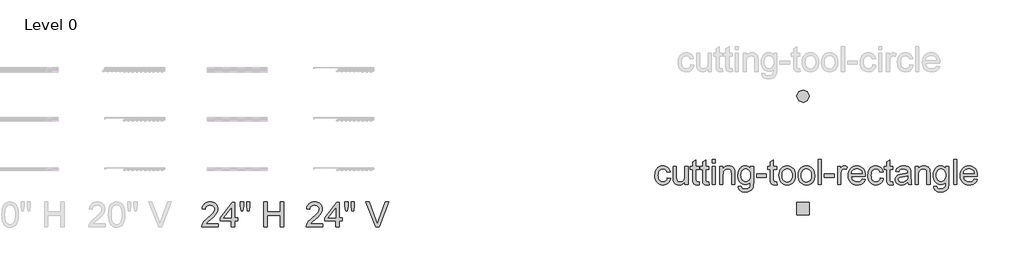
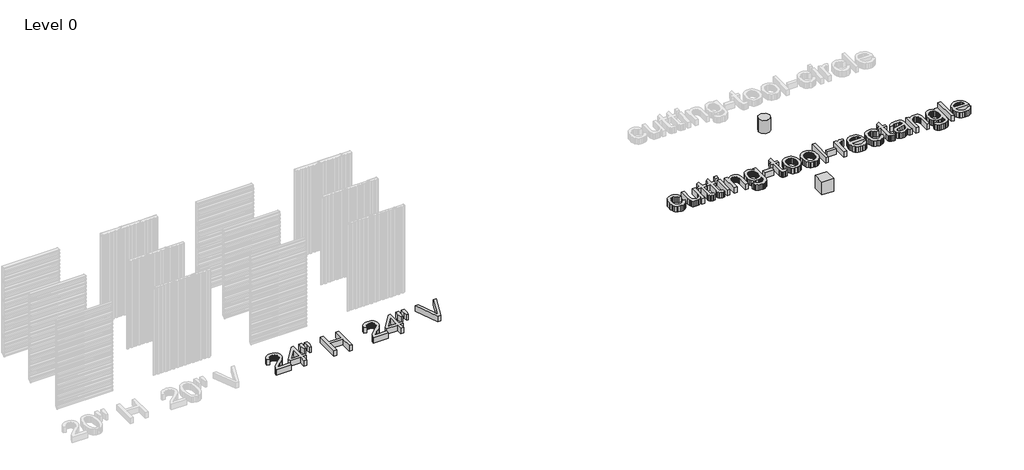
# One storey, part 3 of 4: 5 proxies.
"""IFC4 building model written with IfcOpenShell, lengths in millimetres."""

from ifc_helpers import new_model, si_unit, origin, origin_with_axes, place, context, project, spatial, polyline, outline, extrude, transform, mapped, element, save
from components import kingspan_ks_cutting_tool_circle_cutting_tool_circle_f6fe257a, kingspan_ks_cutting_tool_rectangle_cutting_tool_rectangle_f435e5aa

model = new_model("IFC4")

# Units and contexts
model_context = context("Model", 3, world=origin())
ifc_project = project(units=[si_unit("LENGTHUNIT", "METRE", prefix="MILLI")], contexts=[model_context])

# Site, building, storey
site = spatial("IfcSite", under=ifc_project)
building = spatial("IfcBuilding", under=site)
storey = spatial("IfcBuildingStorey", under=building, Name="Level 0", Elevation=0.0)

# Proxies
placement = place(None, origin())
element("IfcBuildingElementProxy", 1, Name="24\" Arial", ObjectType="24\" Arial", at=placement, inside=storey, context=model_context, shape_type="SweptSolid", body=[
    extrude(outline(polyline([(-14330.7539818, 9485.5823155), (-14330.7539818, 9409.440542), (-14730.4982928, 9409.440542), (-14728.8252557, 9436.2463129), (-14722.3190007, 9461.9367257), (-14703.5438075, 9502.9633112), (-14676.0688218, 9542.7630029), (-14636.3248981, 9584.4216246), (-14580.7428905, 9631.0250001), (-14498.5781838, 9704.0065926), (-14449.2793597, 9757.8783845), (-14434.900536, 9779.8881159), (-14424.6299477, 9801.6004185), (-14418.4675947, 9823.0152923), (-14416.413477, 9844.1327373), (-14418.3514115, 9864.0000519), (-14424.1652152, 9882.259392), (-14433.8548879, 9898.9107576), (-14447.4204297, 9913.9541488), (-14464.1089739, 9926.4136272), (-14483.1676539, 9935.3132547), (-14504.5964697, 9940.6530311), (-14528.3954213, 9942.4329566), (-14553.4677399, 9940.6948571), (-14575.8910832, 9935.4805584), (-14595.6654513, 9926.7900605), (-14612.790844, 9914.6233636), (-14626.64452, 9899.3894321), (-14636.6037376, 9881.4972307), (-14642.6684968, 9860.9467593), (-14644.8387975, 9837.7380181), (-14720.9805711, 9847.2557397), (-14714.4324901, 9886.562815), (-14702.521396, 9920.906547), (-14685.2472888, 9950.286936), (-14662.6101685, 9974.7039817), (-14635.1305355, 9993.8974342), (-14603.3288903, 10007.6070431), (-14567.2052327, 10015.8328084), (-14526.7595628, 10018.5747302), (-14485.9514016, 10015.5260849), (-14449.6325564, 10006.3801492), (-14417.8030272, 9991.1369231), (-14390.462814, 9969.7964065), (-14368.5042031, 9943.93869), (-14352.8194811, 9915.143864), (-14343.4086479, 9883.4119286), (-14340.2717035, 9848.7428838), (-14343.6549561, 9812.3264447), (-14353.804714, 9776.5420419), (-14371.8177459, 9740.1441921), (-14398.7908204, 9701.8874124), (-14441.7878717, 9656.2135018), (-14507.8728339, 9597.5642598), (-14595.4656163, 9524.3224171), (-14629.818643, 9485.5823155), (-14330.7539818, 9485.5823155)])), origin_with_axes(), (0.0, 0.0, 1.0), 152.4),
    extrude(outline(polyline([(-14007.1514443, 9409.440542), (-14007.1514443, 9552.2063674), (-14283.1653733, 9552.2063674), (-14283.1653733, 9628.3481409), (-13988.116001, 10009.0570085), (-13931.0096708, 10009.0570085), (-13931.0096708, 9628.3481409), (-13854.8678973, 9628.3481409), (-13854.8678973, 9552.2063674), (-13931.0096708, 9552.2063674), (-13931.0096708, 9409.440542), (-14007.1514443, 9409.440542)]), holes=[polyline([(-14007.1514443, 9628.3481409), (-14007.1514443, 9863.6143239), (-14189.4753005, 9628.3481409), (-14007.1514443, 9628.3481409)])]), origin_with_axes(), (0.0, 0.0, 1.0), 152.4),
    extrude(outline(polyline([(-13769.6545453, 9799.6671313), (-13788.2438455, 9917.3002228), (-13788.2438455, 10018.5747302), (-13712.102072, 10018.5747302), (-13712.102072, 9917.3002228), (-13728.7580849, 9799.6671313), (-13769.6545453, 9799.6671313)])), origin_with_axes(), (0.0, 0.0, 1.0), 152.4),
    extrude(outline(polyline([(-13617.8171415, 9799.6671313), (-13635.9602984, 9917.3002228), (-13635.9602984, 10018.5747302), (-13559.8185249, 10018.5747302), (-13559.8185249, 9917.3002228), (-13577.6642531, 9799.6671313), (-13617.8171415, 9799.6671313)])), origin_with_axes(), (0.0, 0.0, 1.0), 152.4),
    extrude(outline(polyline([(-13217.1805441, 9409.440542), (-13217.1805441, 10018.5747302), (-13141.0387706, 10018.5747302), (-13141.0387706, 9771.1139662), (-12817.4362331, 9771.1139662), (-12817.4362331, 10018.5747302), (-12741.2944596, 10018.5747302), (-12741.2944596, 9409.440542), (-12817.4362331, 9409.440542), (-12817.4362331, 9694.9721927), (-13141.0387706, 9694.9721927), (-13141.0387706, 9409.440542), (-13217.1805441, 9409.440542)])), origin_with_axes(), (0.0, 0.0, 1.0), 152.4),
])
element("IfcBuildingElementProxy", 2, Name="24\" Arial", ObjectType="24\" Arial", at=placement, inside=storey, context=model_context, shape_type="SweptSolid", body=[
    extrude(outline(polyline([(-11790.7539818, 9485.5823155), (-11790.7539818, 9409.440542), (-12190.4982928, 9409.440542), (-12188.8252557, 9436.2463129), (-12182.3190007, 9461.9367257), (-12163.5438075, 9502.9633112), (-12136.0688218, 9542.7630029), (-12096.3248981, 9584.4216246), (-12040.7428905, 9631.0250001), (-11958.5781838, 9704.0065926), (-11909.2793597, 9757.8783845), (-11894.900536, 9779.8881159), (-11884.6299477, 9801.6004185), (-11878.4675947, 9823.0152923), (-11876.413477, 9844.1327373), (-11878.3514115, 9864.0000519), (-11884.1652152, 9882.259392), (-11893.8548879, 9898.9107576), (-11907.4204297, 9913.9541488), (-11924.1089739, 9926.4136272), (-11943.1676539, 9935.3132547), (-11964.5964697, 9940.6530311), (-11988.3954213, 9942.4329566), (-12013.4677399, 9940.6948571), (-12035.8910832, 9935.4805584), (-12055.6654513, 9926.7900605), (-12072.790844, 9914.6233636), (-12086.64452, 9899.3894321), (-12096.6037376, 9881.4972307), (-12102.6684968, 9860.9467593), (-12104.8387975, 9837.7380181), (-12180.9805711, 9847.2557397), (-12174.4324901, 9886.562815), (-12162.521396, 9920.906547), (-12145.2472888, 9950.286936), (-12122.6101685, 9974.7039817), (-12095.1305355, 9993.8974342), (-12063.3288903, 10007.6070431), (-12027.2052327, 10015.8328084), (-11986.7595628, 10018.5747302), (-11945.9514016, 10015.5260849), (-11909.6325564, 10006.3801492), (-11877.8030272, 9991.1369231), (-11850.462814, 9969.7964065), (-11828.5042031, 9943.93869), (-11812.8194811, 9915.143864), (-11803.4086479, 9883.4119286), (-11800.2717035, 9848.7428838), (-11803.6549561, 9812.3264447), (-11813.804714, 9776.5420419), (-11831.8177459, 9740.1441921), (-11858.7908204, 9701.8874124), (-11901.7878717, 9656.2135018), (-11967.8728339, 9597.5642598), (-12055.4656163, 9524.3224171), (-12089.818643, 9485.5823155), (-11790.7539818, 9485.5823155)])), origin_with_axes(), (0.0, 0.0, 1.0), 152.4),
    extrude(outline(polyline([(-11467.1514443, 9409.440542), (-11467.1514443, 9552.2063674), (-11743.1653733, 9552.2063674), (-11743.1653733, 9628.3481409), (-11448.116001, 10009.0570085), (-11391.0096708, 10009.0570085), (-11391.0096708, 9628.3481409), (-11314.8678973, 9628.3481409), (-11314.8678973, 9552.2063674), (-11391.0096708, 9552.2063674), (-11391.0096708, 9409.440542), (-11467.1514443, 9409.440542)]), holes=[polyline([(-11467.1514443, 9628.3481409), (-11467.1514443, 9863.6143239), (-11649.4753005, 9628.3481409), (-11467.1514443, 9628.3481409)])]), origin_with_axes(), (0.0, 0.0, 1.0), 152.4),
    extrude(outline(polyline([(-11229.6545453, 9799.6671313), (-11248.2438455, 9917.3002228), (-11248.2438455, 10018.5747302), (-11172.102072, 10018.5747302), (-11172.102072, 9917.3002228), (-11188.7580849, 9799.6671313), (-11229.6545453, 9799.6671313)])), origin_with_axes(), (0.0, 0.0, 1.0), 152.4),
    extrude(outline(polyline([(-11077.8171415, 9799.6671313), (-11095.9602984, 9917.3002228), (-11095.9602984, 10018.5747302), (-11019.8185249, 10018.5747302), (-11019.8185249, 9917.3002228), (-11037.6642531, 9799.6671313), (-11077.8171415, 9799.6671313)])), origin_with_axes(), (0.0, 0.0, 1.0), 152.4),
    extrude(outline(polyline([(-10497.2361184, 9409.440542), (-10739.6405927, 10018.5747302), (-10658.1451007, 10018.5747302), (-10495.8976888, 9579.7185316), (-10463.0318061, 9480.8234547), (-10430.6120666, 9579.7185316), (-10267.9185114, 10018.5747302), (-10186.4230195, 10018.5747302), (-10418.5662001, 9409.440542), (-10497.2361184, 9409.440542)])), origin_with_axes(), (0.0, 0.0, 1.0), 152.4),
])
element("IfcBuildingElementProxy", 3, Name="24\" Arial", ObjectType="24\" Arial", at=placement, inside=storey, context=model_context, shape_type="SweptSolid", body=[
    extrude(outline(polyline([(-3409.5953421, 10602.3716659), (-3333.4535686, 10592.8539442), (-3341.7351019, 10556.9254743), (-3354.6825494, 10525.1331236), (-3372.2959113, 10497.4768923), (-3394.5751876, 10473.9567802), (-3420.5816185, 10455.1862344), (-3449.3764445, 10441.7787016), (-3480.9596655, 10433.734182), (-3515.3312815, 10431.0526754), (-3558.0355514, 10434.7937721), (-3596.3248624, 10446.0170621), (-3630.1992146, 10464.7225454), (-3659.6586081, 10490.910222), (-3683.5040329, 10524.0874755), (-3700.5364792, 10563.7616894), (-3710.755947, 10609.9328637), (-3714.1624362, 10662.6009984), (-3708.3439853, 10730.3589976), (-3701.0709216, 10760.8500972), (-3690.8886324, 10789.0825968), (-3677.7274079, 10814.4895228), (-3661.5175381, 10836.5039016), (-3642.2590231, 10855.125733), (-3619.9518629, 10870.3550172), (-3595.604527, 10882.1964014), (-3570.225485, 10890.654533), (-3543.8147367, 10895.7294119), (-3516.3722823, 10897.4210382), (-3482.5908766, 10895.0973757), (-3452.0347144, 10888.1263881), (-3424.7037959, 10876.5080755), (-3400.5981209, 10860.2424379), (-3380.126654, 10839.7012612), (-3363.69836, 10815.2563315), (-3351.3132388, 10786.9076487), (-3342.9712903, 10754.6552129), (-3419.1130638, 10745.1374912), (-3432.9249139, 10778.3565706), (-3454.4327342, 10802.1694641), (-3482.4468095, 10816.5018146), (-3515.7774247, 10821.2792647), (-3541.6490833, 10818.9277182), (-3564.9833023, 10811.8730788), (-3585.7800819, 10800.1153465), (-3604.039422, 10783.6545212), (-3618.9062148, 10762.1095223), (-3629.5253525, 10735.0992691), (-3635.8968351, 10702.6237617), (-3638.0206627, 10664.683), (-3635.9433084, 10626.1706174), (-3629.7112455, 10593.3186767), (-3619.324474, 10566.1271778), (-3604.782994, 10544.5961209), (-3586.8861452, 10528.2328894), (-3566.4332677, 10516.5448669), (-3543.4243614, 10509.5320535), (-3517.8594264, 10507.194449), (-3478.4315207, 10513.0314892), (-3461.3804851, 10520.3277895), (-3446.1047277, 10530.54261), (-3433.0318023, 10543.7874864), (-3422.589263, 10560.1739545), (-3414.7771096, 10579.7020143), (-3409.5953421, 10602.3716659)])), origin_with_axes(), (0.0, 0.0, 1.0), 152.4),
    extrude(outline(polyline([(-2981.2978661, 10440.5703971), (-2981.2978661, 10517.4557427), (-3008.847209, 10479.6544008), (-3040.9323411, 10452.6534422), (-3077.5532624, 10436.4528671), (-3118.709973, 10431.0526754), (-3155.7956269, 10434.8448927), (-3190.3159573, 10446.2215444), (-3219.278087, 10463.3237005), (-3239.6891385, 10484.2924311), (-3253.4266314, 10509.7597724), (-3262.3680848, 10540.3577605), (-3266.8295168, 10611.1458155), (-3266.8295168, 10887.9033165), (-3190.6877433, 10887.9033165), (-3190.6877433, 10646.9859863), (-3189.5352067, 10598.8025202), (-3186.0775968, 10569.3570687), (-3174.9797846, 10543.4621736), (-3155.9629306, 10523.7761047), (-3130.291107, 10511.3398629), (-3099.2283864, 10507.194449), (-3066.381093, 10511.4328094), (-3035.6529798, 10524.1478907), (-3010.3157637, 10544.168567), (-2993.6411614, 10570.3237124), (-2984.3836899, 10606.1452938), (-2981.2978661, 10655.1652784), (-2981.2978661, 10887.9033165), (-2905.1560926, 10887.9033165), (-2905.1560926, 10440.5703971), (-2981.2978661, 10440.5703971)])), origin_with_axes(), (0.0, 0.0, 1.0), 152.4),
    extrude(outline(polyline([(-2638.6598853, 10504.0714465), (-2629.1421636, 10438.3396811), (-2659.2940085, 10432.8744269), (-2686.0997793, 10431.0526754), (-2722.6463435, 10434.2128565), (-2749.8982575, 10443.6933996), (-2769.1567725, 10458.3045895), (-2781.7231394, 10476.8567111), (-2788.6383591, 10508.7187716), (-2790.9434323, 10563.2597783), (-2790.9434323, 10811.761543), (-2848.0497625, 10811.761543), (-2848.0497625, 10887.9033165), (-2790.9434323, 10887.9033165), (-2790.9434323, 10996.613544), (-2714.8016588, 11041.3765788), (-2714.8016588, 10887.9033165), (-2638.6598853, 10887.9033165), (-2638.6598853, 10811.761543), (-2714.8016588, 10811.761543), (-2714.8016588, 10565.4904943), (-2710.78637, 10526.2298923), (-2697.7738598, 10512.3250958), (-2686.7875834, 10508.4771107), (-2671.8231968, 10507.194449), (-2638.6598853, 10504.0714465)])), origin_with_axes(), (0.0, 0.0, 1.0), 152.4),
    extrude(outline(polyline([(-2400.716843, 10504.0714465), (-2391.1991214, 10438.3396811), (-2421.3509662, 10432.8744269), (-2448.1567371, 10431.0526754), (-2484.7033012, 10434.2128565), (-2511.9552153, 10443.6933996), (-2531.2137303, 10458.3045895), (-2543.7800972, 10476.8567111), (-2550.6953169, 10508.7187716), (-2553.0003901, 10563.2597783), (-2553.0003901, 10811.761543), (-2610.1067202, 10811.761543), (-2610.1067202, 10887.9033165), (-2553.0003901, 10887.9033165), (-2553.0003901, 10996.613544), (-2476.8586166, 11041.3765788), (-2476.8586166, 10887.9033165), (-2400.716843, 10887.9033165), (-2400.716843, 10811.761543), (-2476.8586166, 10811.761543), (-2476.8586166, 10565.4904943), (-2472.8433277, 10526.2298923), (-2459.8308176, 10512.3250958), (-2448.8445412, 10508.4771107), (-2433.8801546, 10507.194449), (-2400.716843, 10504.0714465)])), origin_with_axes(), (0.0, 0.0, 1.0), 152.4),
    extrude(outline(polyline([(-2324.5750695, 10973.5628118), (-2324.5750695, 11049.7045853), (-2248.433296, 11049.7045853), (-2248.433296, 10973.5628118), (-2324.5750695, 10973.5628118)])), origin_with_axes(), (0.0, 0.0, 1.0), 152.4),
    extrude(outline(polyline([(-2324.5750695, 10440.5703971), (-2324.5750695, 10887.9033165), (-2248.433296, 10887.9033165), (-2248.433296, 10440.5703971), (-2324.5750695, 10440.5703971)])), origin_with_axes(), (0.0, 0.0, 1.0), 152.4),
    extrude(outline(polyline([(-2134.2206357, 10440.5703971), (-2134.2206357, 10887.9033165), (-2058.0788622, 10887.9033165), (-2058.0788622, 10825.443268), (-2031.6262881, 10856.9335425), (-1999.8571741, 10879.4265957), (-1962.7715202, 10892.9224276), (-1920.3693265, 10897.4210382), (-1882.8375295, 10893.7961247), (-1848.4659134, 10882.9213841), (-1819.8012126, 10866.1538353), (-1799.390161, 10844.8504973), (-1785.5411323, 10819.067138), (-1776.5625004, 10788.8595252), (-1772.5472115, 10715.2458965), (-1772.5472115, 10440.5703971), (-1848.688985, 10440.5703971), (-1848.688985, 10704.9846028), (-1850.8825225, 10744.3567406), (-1857.4631347, 10772.3522267), (-1869.6019477, 10792.4100815), (-1888.4700874, 10807.9693258), (-1912.6547669, 10817.95178), (-1940.7431995, 10821.2792647), (-1963.8636416, 10819.4110401), (-1985.3389306, 10813.806366), (-2005.1690666, 10804.4652427), (-2023.3540495, 10791.38767), (-2038.5461551, 10773.086504), (-2049.397659, 10748.0746006), (-2055.9085614, 10716.3519599), (-2058.0788622, 10677.9185818), (-2058.0788622, 10440.5703971), (-2134.2206357, 10440.5703971)])), origin_with_axes(), (0.0, 0.0, 1.0), 152.4),
    extrude(outline(polyline([(-1686.8877163, 10402.4995104), (-1610.7459428, 10392.9817887), (-1602.3435791, 10369.1874845), (-1586.0593522, 10352.8289003), (-1554.0485773, 10340.113819), (-1512.1482947, 10335.8754585), (-1467.4596171, 10340.671498), (-1449.4094066, 10346.6665473), (-1434.2219483, 10355.0596163), (-1411.1712161, 10378.1103485), (-1397.043348, 10408.8942296), (-1392.9165234, 10441.6485765), (-1391.8383439, 10497.6767273), (-1417.1755601, 10472.6927078), (-1445.4498856, 10454.8469797), (-1476.6613206, 10444.1395428), (-1510.8098651, 10440.5703971), (-1552.5567859, 10444.7251057), (-1589.3124797, 10457.1892315), (-1621.0769464, 10477.9627744), (-1647.850186, 10507.0457346), (-1669.0931087, 10541.937851), (-1684.266625, 10580.1388628), (-1693.3707348, 10621.6487701), (-1696.405438, 10666.4675729), (-1690.9587731, 10727.9423885), (-1674.6187782, 10784.4724504), (-1662.5078491, 10809.9630282), (-1647.9617218, 10832.3770769), (-1630.980396, 10851.7145964), (-1611.563872, 10867.9755868), (-1590.0235204, 10880.8579718), (-1566.6707121, 10890.0596754), (-1541.505447, 10895.5806975), (-1514.5277251, 10897.4210382), (-1478.9199206, 10893.257035), (-1446.6024223, 10880.7650253), (-1417.57523, 10859.9450091), (-1391.8383439, 10830.7969864), (-1391.8383439, 10887.9033165), (-1315.6965704, 10887.9033165), (-1315.6965704, 10501.6920161), (-1320.9015745, 10412.5191432), (-1327.4078295, 10379.3511843), (-1336.5165866, 10353.7955439), (-1348.44627, 10333.1846573), (-1363.415304, 10314.85096), (-1381.4236885, 10298.794452), (-1402.4714236, 10285.0151333), (-1426.3447324, 10273.9544997), (-1452.8298378, 10266.0540471), (-1481.9267399, 10261.3137755), (-1513.6354387, 10259.733685), (-1550.9395168, 10261.9597537), (-1584.4792617, 10268.6379598), (-1614.2546732, 10279.7683033), (-1640.2657515, 10295.3507842), (-1661.276308, 10315.4039917), (-1676.0501543, 10339.9465153), (-1684.5872904, 10368.9783548), (-1686.8877163, 10402.4995104)]), holes=[polyline([(-1620.2636645, 10671.6725769), (-1618.2327834, 10634.0245967), (-1612.1401403, 10601.8325762), (-1601.9857351, 10575.0965152), (-1587.7695678, 10553.8164138), (-1570.4861659, 10537.5833074), (-1551.1300571, 10525.9882314), (-1529.7012414, 10519.0311858), (-1506.1997186, 10516.7121707), (-1482.9305621, 10519.0172439), (-1461.6039875, 10525.9324635), (-1442.2199947, 10537.4578296), (-1424.7785839, 10553.5933422), (-1410.3672289, 10574.6643139), (-1400.0734039, 10600.9960576), (-1393.8971089, 10632.5885733), (-1391.8383439, 10669.4418609), (-1393.9575242, 10704.7568839), (-1400.3150648, 10735.4524658), (-1410.9109659, 10761.5286066), (-1425.7452275, 10782.9853064), (-1443.5630717, 10799.7389131), (-1463.1097208, 10811.7057751), (-1484.3851749, 10818.8858923), (-1507.3894338, 10821.2792647), (-1530.0079648, 10818.9230709), (-1550.8698069, 10811.8544895), (-1569.9749602, 10800.0735205), (-1587.3234246, 10783.580164), (-1601.7347795, 10762.448777), (-1612.0286045, 10736.7537168), (-1618.2048995, 10706.4949835), (-1620.2636645, 10671.6725769)])]), origin_with_axes(), (0.0, 0.0, 1.0), 152.4),
    extrude(outline(polyline([(-1239.5547969, 10621.4071092), (-1239.5547969, 10697.5488828), (-1001.6117547, 10697.5488828), (-1001.6117547, 10621.4071092), (-1239.5547969, 10621.4071092)])), origin_with_axes(), (0.0, 0.0, 1.0), 152.4),
    extrude(outline(polyline([(-754.1509907, 10504.0714465), (-744.633269, 10438.3396811), (-774.7851139, 10432.8744269), (-801.5908848, 10431.0526754), (-838.1374489, 10434.2128565), (-865.389363, 10443.6933996), (-884.647878, 10458.3045895), (-897.2142449, 10476.8567111), (-904.1294645, 10508.7187716), (-906.4345378, 10563.2597783), (-906.4345378, 10811.761543), (-963.5408679, 10811.761543), (-963.5408679, 10887.9033165), (-906.4345378, 10887.9033165), (-906.4345378, 10996.613544), (-830.2927643, 11041.3765788), (-830.2927643, 10887.9033165), (-754.1509907, 10887.9033165), (-754.1509907, 10811.761543), (-830.2927643, 10811.761543), (-830.2927643, 10565.4904943), (-826.2774754, 10526.2298923), (-813.2649653, 10512.3250958), (-802.2786889, 10508.4771107), (-787.3143022, 10507.194449), (-754.1509907, 10504.0714465)])), origin_with_axes(), (0.0, 0.0, 1.0), 152.4),
    extrude(outline(polyline([(-697.0446606, 10664.2368568), (-692.9271306, 10722.1704108), (-680.5745406, 10772.0919765), (-659.9868907, 10814.0015537), (-631.1641808, 10847.8991426), (-602.1462832, 10869.5649719), (-570.116919, 10885.0405643), (-535.0760882, 10894.3259198), (-497.0237907, 10897.4210382), (-455.0166196, 10893.6520576), (-417.0340321, 10882.3451158), (-383.076028, 10863.5002127), (-353.1426074, 10837.1173485), (-328.7116196, 10804.0888094), (-311.2609141, 10765.3068819), (-300.7904907, 10720.771566), (-297.3003496, 10670.4828617), (-298.8432615, 10629.7258211), (-303.4719973, 10593.5603376), (-311.1865569, 10561.9864112), (-321.9869403, 10535.004042), (-335.7383751, 10511.6977069), (-352.3060889, 10491.1518829), (-371.6900816, 10473.36657), (-393.8903533, 10458.3417681), (-418.0425016, 10446.4027901), (-443.2821239, 10437.8749486), (-469.6092203, 10432.7582437), (-497.0237907, 10431.0526754), (-539.6444087, 10434.8077141), (-577.980193, 10446.07283), (-612.0311436, 10464.8480232), (-641.7972605, 10491.1332936), (-665.967998, 10524.4824981), (-683.2328106, 10564.4494935), (-693.5916981, 10611.0342797), (-697.0446606, 10664.2368568)]), holes=[polyline([(-620.9028871, 10664.3855712), (-618.700055, 10627.4532791), (-612.0915588, 10595.4750355), (-601.0773984, 10568.4508404), (-585.6575739, 10546.3806937), (-566.9009701, 10529.2367116), (-545.8764716, 10516.9910102), (-522.5840785, 10509.6435893), (-497.0237907, 10507.194449), (-471.5936281, 10509.6575312), (-448.3941815, 10517.0467781), (-427.4254509, 10529.3621894), (-408.6874363, 10546.6037653), (-393.2676118, 10568.8923362), (-382.2534514, 10596.3487326), (-375.6449552, 10628.9729544), (-373.4421232, 10666.7650017), (-375.6588972, 10702.5261679), (-382.3092193, 10733.667893), (-393.3930896, 10760.190177), (-408.9105079, 10782.0930199), (-427.7182323, 10799.237002), (-448.673021, 10811.4827035), (-471.7748738, 10818.8301244), (-497.0237907, 10821.2792647), (-522.5840785, 10818.8394191), (-545.8764716, 10811.5198821), (-566.9009701, 10799.3206539), (-585.6575739, 10782.2417344), (-601.0773984, 10760.2366503), (-612.0915588, 10733.2589284), (-618.700055, 10701.3085687), (-620.9028871, 10664.3855712)])]), origin_with_axes(), (0.0, 0.0, 1.0), 152.4),
    extrude(outline(polyline([(-230.6762978, 10664.2368568), (-226.5587678, 10722.1704108), (-214.2061779, 10772.0919765), (-193.6185279, 10814.0015537), (-164.795818, 10847.8991426), (-135.7779204, 10869.5649719), (-103.7485562, 10885.0405643), (-68.7077254, 10894.3259198), (-30.6554279, 10897.4210382), (11.3517431, 10893.6520576), (49.3343307, 10882.3451158), (83.2923348, 10863.5002127), (113.2257554, 10837.1173485), (137.6567432, 10804.0888094), (155.1074487, 10765.3068819), (165.5778721, 10720.771566), (169.0680132, 10670.4828617), (167.5251012, 10629.7258211), (162.8963655, 10593.5603376), (155.1818059, 10561.9864112), (144.3814225, 10535.004042), (130.6299877, 10511.6977069), (114.0622739, 10491.1518829), (94.6782812, 10473.36657), (72.4780094, 10458.3417681), (48.3258612, 10446.4027901), (23.0862389, 10437.8749486), (-3.2408575, 10432.7582437), (-30.6554279, 10431.0526754), (-73.2760459, 10434.8077141), (-111.6118302, 10446.07283), (-145.6627808, 10464.8480232), (-175.4288977, 10491.1332936), (-199.5996352, 10524.4824981), (-216.8644478, 10564.4494935), (-227.2233353, 10611.0342797), (-230.6762978, 10664.2368568)]), holes=[polyline([(-154.5345243, 10664.3855712), (-152.3316922, 10627.4532791), (-145.723196, 10595.4750355), (-134.7090357, 10568.4508404), (-119.2892112, 10546.3806937), (-100.5326073, 10529.2367116), (-79.5081088, 10516.9910102), (-56.2157157, 10509.6435893), (-30.6554279, 10507.194449), (-5.2252653, 10509.6575312), (17.9741813, 10517.0467781), (38.9429119, 10529.3621894), (57.6809265, 10546.6037653), (73.100751, 10568.8923362), (84.1149114, 10596.3487326), (90.7234076, 10628.9729544), (92.9262396, 10666.7650017), (90.7094656, 10702.5261679), (84.0591435, 10733.667893), (72.9752732, 10760.190177), (57.4578549, 10782.0930199), (38.6501305, 10799.237002), (17.6953418, 10811.4827035), (-5.406511, 10818.8301244), (-30.6554279, 10821.2792647), (-56.2157157, 10818.8394191), (-79.5081088, 10811.5198821), (-100.5326073, 10799.3206539), (-119.2892112, 10782.2417344), (-134.7090357, 10760.2366503), (-145.723196, 10733.2589284), (-152.3316922, 10701.3085687), (-154.5345243, 10664.3855712)])]), origin_with_axes(), (0.0, 0.0, 1.0), 152.4),
    extrude(outline(polyline([(254.7275084, 10440.5703971), (254.7275084, 11049.7045853), (330.8692819, 11049.7045853), (330.8692819, 10440.5703971), (254.7275084, 10440.5703971)])), origin_with_axes(), (0.0, 0.0, 1.0), 152.4),
    extrude(outline(polyline([(407.0110554, 10621.4071092), (407.0110554, 10697.5488828), (644.9540976, 10697.5488828), (644.9540976, 10621.4071092), (407.0110554, 10621.4071092)])), origin_with_axes(), (0.0, 0.0, 1.0), 152.4),
    extrude(outline(polyline([(730.6135928, 10440.5703971), (730.6135928, 10887.9033165), (797.2376447, 10887.9033165), (797.2376447, 10821.7254079), (821.8498781, 10860.0937235), (844.5288243, 10882.6983125), (867.2821277, 10893.7403568), (892.1174328, 10897.4210382), (930.0396051, 10891.5468194), (968.5566351, 10873.9241628), (943.1264724, 10805.6642526), (916.3578802, 10817.3755117), (889.5892879, 10821.2792647), (866.8545738, 10817.5242261), (846.5364687, 10806.2591102), (830.1221167, 10788.3390248), (819.0986617, 10764.6190778), (809.8411902, 10722.086759), (806.7553664, 10675.6878657), (806.7553664, 10440.5703971), (730.6135928, 10440.5703971)])), origin_with_axes(), (0.0, 0.0, 1.0), 152.4),
    extrude(outline(polyline([(1329.3377729, 10573.8185008), (1403.9924024, 10564.3007791), (1392.5460408, 10534.3998898), (1377.093685, 10508.0495568), (1357.6353351, 10485.2497801), (1334.1709909, 10466.0005598), (1306.9423135, 10450.7108604), (1276.1909637, 10439.7896465), (1241.9169415, 10433.2369182), (1204.1202469, 10431.0526754), (1156.8755405, 10434.8216561), (1114.7800703, 10446.1285979), (1077.8338362, 10464.9735009), (1046.0368382, 10491.3563652), (1020.4672558, 10524.5429133), (1002.2032684, 10563.798868), (991.244876, 10609.1242291), (987.5920785, 10660.5189968), (991.2820546, 10713.6565114), (1002.3519828, 10760.4922531), (1020.8018632, 10801.0262222), (1046.6316958, 10835.2584185), (1078.3450419, 10862.4545646), (1114.4454629, 10881.8803833), (1154.9329586, 10893.5358745), (1199.8075293, 10897.4210382), (1243.2367818, 10893.5451691), (1282.5113257, 10881.9175619), (1317.6311611, 10862.5382165), (1348.5962879, 10835.4071329), (1373.8730888, 10801.2492938), (1391.9279466, 10760.7896819), (1402.7608613, 10714.0282974), (1406.3718328, 10660.96514), (1405.9256896, 10640.4425526), (1063.733852, 10640.4425526), (1068.1441635, 10610.0583415), (1076.9136658, 10583.4477583), (1090.0423591, 10560.610803), (1107.5302432, 10541.5474757), (1128.4106746, 10526.5180265), (1151.7170097, 10515.7827056), (1177.4492485, 10509.3415131), (1205.6073909, 10507.194449), (1246.1320653, 10511.1725592), (1280.2620204, 10523.1068899), (1307.9972563, 10543.7410131), (1329.3377729, 10573.8185008)]), holes=[polyline([(1063.733852, 10716.5843261), (1330.2300593, 10716.5843261), (1319.931587, 10756.8115717), (1311.0737855, 10772.6310662), (1299.743607, 10785.5878084), (1278.9793587, 10801.2028205), (1255.3523582, 10812.3564006), (1228.8626054, 10819.0485487), (1199.5101005, 10821.2792647), (1172.7368609, 10819.4993392), (1148.1850427, 10814.1595628), (1125.8546458, 10805.2599353), (1105.7456704, 10792.8004569), (1088.8712331, 10777.3573957), (1076.244451, 10759.5070202), (1067.8653239, 10739.2493304), (1063.733852, 10716.5843261)])]), origin_with_axes(), (0.0, 0.0, 1.0), 152.4),
    extrude(outline(polyline([(1768.045257, 10602.3716659), (1844.1870305, 10592.8539442), (1835.9054973, 10556.9254743), (1822.9580497, 10525.1331236), (1805.3446878, 10497.4768923), (1783.0654116, 10473.9567802), (1757.0589806, 10455.1862344), (1728.2641546, 10441.7787016), (1696.6809336, 10433.734182), (1662.3093176, 10431.0526754), (1619.6050478, 10434.7937721), (1581.3157368, 10446.0170621), (1547.4413845, 10464.7225454), (1517.9819911, 10490.910222), (1494.1365663, 10524.0874755), (1477.10412, 10563.7616894), (1466.8846522, 10609.9328637), (1463.4781629, 10662.6009984), (1469.2966139, 10730.3589976), (1476.5696776, 10760.8500972), (1486.7519668, 10789.0825968), (1499.9131913, 10814.4895228), (1516.123061, 10836.5039016), (1535.381576, 10855.125733), (1557.6887362, 10870.3550172), (1582.0360721, 10882.1964014), (1607.4151142, 10890.654533), (1633.8258624, 10895.7294119), (1661.2683168, 10897.4210382), (1695.0497226, 10895.0973757), (1725.6058847, 10888.1263881), (1752.9368033, 10876.5080755), (1777.0424783, 10860.2424379), (1797.5139451, 10839.7012612), (1813.9422391, 10815.2563315), (1826.3273604, 10786.9076487), (1834.6693088, 10754.6552129), (1758.5275353, 10745.1374912), (1744.7156853, 10778.3565706), (1723.207865, 10802.1694641), (1695.1937896, 10816.5018146), (1661.8631744, 10821.2792647), (1635.9915159, 10818.9277182), (1612.6572969, 10811.8730788), (1591.8605173, 10800.1153465), (1573.6011772, 10783.6545212), (1558.7343844, 10762.1095223), (1548.1152466, 10735.0992691), (1541.743764, 10702.6237617), (1539.6199365, 10664.683), (1541.6972908, 10626.1706174), (1547.9293536, 10593.3186767), (1558.3161251, 10566.1271778), (1572.8576052, 10544.5961209), (1590.7544539, 10528.2328894), (1611.2073314, 10516.5448669), (1634.2162377, 10509.5320535), (1659.7811728, 10507.194449), (1699.2090785, 10513.0314892), (1716.2601141, 10520.3277895), (1731.5358715, 10530.54261), (1744.6087968, 10543.7874864), (1755.0513362, 10560.1739545), (1762.8634896, 10579.7020143), (1768.045257, 10602.3716659)])), origin_with_axes(), (0.0, 0.0, 1.0), 152.4),
    extrude(outline(polyline([(2072.6123511, 10504.0714465), (2082.1300728, 10438.3396811), (2051.9782279, 10432.8744269), (2025.172457, 10431.0526754), (1988.6258929, 10434.2128565), (1961.3739788, 10443.6933996), (1942.1154639, 10458.3045895), (1929.5490969, 10476.8567111), (1922.6338773, 10508.7187716), (1920.3288041, 10563.2597783), (1920.3288041, 10811.761543), (1863.2224739, 10811.761543), (1863.2224739, 10887.9033165), (1920.3288041, 10887.9033165), (1920.3288041, 10996.613544), (1996.4705776, 11041.3765788), (1996.4705776, 10887.9033165), (2072.6123511, 10887.9033165), (2072.6123511, 10811.761543), (1996.4705776, 10811.761543), (1996.4705776, 10565.4904943), (2000.4858664, 10526.2298923), (2013.4983765, 10512.3250958), (2024.4846529, 10508.4771107), (2039.4490396, 10507.194449), (2072.6123511, 10504.0714465)])), origin_with_axes(), (0.0, 0.0, 1.0), 152.4),
    extrude(outline(polyline([(2434.2857753, 10497.6767273), (2397.9065148, 10466.4838816), (2360.449075, 10446.07283), (2321.0583479, 10434.8077141), (2278.8792258, 10431.0526754), (2244.9769896, 10433.3112754), (2215.2480513, 10440.0870753), (2189.6924109, 10451.3800752), (2168.3100684, 10467.190275), (2151.4263365, 10486.5138525), (2139.366528, 10508.3469856), (2132.1306429, 10532.6896742), (2129.7186812, 10559.5419183), (2133.3621841, 10591.10655), (2144.2926926, 10619.7712508), (2161.1531878, 10644.3091271), (2182.5866509, 10663.4932848), (2207.7751527, 10677.992939), (2235.9007638, 10688.4773043), (2301.7812436, 10699.9283132), (2379.6332328, 10711.9741797), (2433.8396321, 10726.1020478), (2434.2857753, 10743.0554896), (2429.0435926, 10777.0367303), (2422.4908643, 10789.6216865), (2413.3170447, 10799.2695333), (2397.4603716, 10808.8987908), (2378.1460888, 10815.7768319), (2329.1446935, 10821.2792647), (2283.7868011, 10817.6171726), (2252.1106336, 10806.6308962), (2230.5098668, 10786.3127911), (2215.3781764, 10754.6552129), (2139.2364029, 10764.1729346), (2152.4533953, 10805.812967), (2172.1766428, 10838.5301353), (2200.2464861, 10863.5513333), (2238.5032658, 10882.1034549), (2285.2925344, 10893.5916424), (2338.959844, 10897.4210382), (2390.4336162, 10894.0377856), (2431.2371301, 10883.8880277), (2462.0024219, 10868.6262123), (2483.3615278, 10849.906787), (2497.5265745, 10826.7631083), (2506.7096888, 10798.2285325), (2510.4275488, 10731.6044807), (2510.4275488, 10636.873407), (2514.2941232, 10504.5919469), (2520.0196277, 10471.8933679), (2529.4629922, 10440.5703971), (2453.3212187, 10440.5703971), (2441.1266378, 10467.0415606), (2434.2857753, 10497.6767273)]), holes=[polyline([(2434.2857753, 10649.9602743), (2383.1280212, 10637.2823716), (2311.4476797, 10626.6121133), (2245.9389859, 10614.268818), (2228.8925977, 10605.8292757), (2216.2704628, 10594.1923738), (2208.4629568, 10580.2503986), (2205.8604547, 10564.8956367), (2211.5301913, 10542.2538691), (2228.539401, 10523.7017475), (2256.5162977, 10511.3212736), (2295.0890956, 10507.194449), (2335.985556, 10511.7488275), (2372.1231555, 10525.4119631), (2401.4198926, 10545.5441752), (2421.7937656, 10569.5057831), (2430.8281655, 10594.1923738), (2433.8396321, 10628.3966861), (2434.2857753, 10649.9602743)])]), origin_with_axes(), (0.0, 0.0, 1.0), 152.4),
    extrude(outline(polyline([(2615.1224874, 10440.5703971), (2615.1224874, 10887.9033165), (2691.2642609, 10887.9033165), (2691.2642609, 10825.443268), (2717.7168351, 10856.9335425), (2749.4859491, 10879.4265957), (2786.5716029, 10892.9224276), (2828.9737966, 10897.4210382), (2866.5055937, 10893.7961247), (2900.8772097, 10882.9213841), (2929.5419106, 10866.1538353), (2949.9529621, 10844.8504973), (2963.8019908, 10819.067138), (2972.7806228, 10788.8595252), (2976.7959116, 10715.2458965), (2976.7959116, 10440.5703971), (2900.6541381, 10440.5703971), (2900.6541381, 10704.9846028), (2898.4606007, 10744.3567406), (2891.8799884, 10772.3522267), (2879.7411754, 10792.4100815), (2860.8730357, 10807.9693258), (2836.6883562, 10817.95178), (2808.5999236, 10821.2792647), (2785.4794815, 10819.4110401), (2764.0041925, 10813.806366), (2744.1740565, 10804.4652427), (2725.9890736, 10791.38767), (2710.7969681, 10773.086504), (2699.9454641, 10748.0746006), (2693.4345617, 10716.3519599), (2691.2642609, 10677.9185818), (2691.2642609, 10440.5703971), (2615.1224874, 10440.5703971)])), origin_with_axes(), (0.0, 0.0, 1.0), 152.4),
    extrude(outline(polyline([(3062.4554068, 10402.4995104), (3138.5971803, 10392.9817887), (3146.999544, 10369.1874845), (3163.283771, 10352.8289003), (3195.2945459, 10340.113819), (3237.1948285, 10335.8754585), (3281.8835061, 10340.671498), (3299.9337165, 10346.6665473), (3315.1211748, 10355.0596163), (3338.171907, 10378.1103485), (3352.2997751, 10408.8942296), (3356.4265998, 10441.6485765), (3357.5047792, 10497.6767273), (3332.167563, 10472.6927078), (3303.8932375, 10454.8469797), (3272.6818025, 10444.1395428), (3238.5332581, 10440.5703971), (3196.7863372, 10444.7251057), (3160.0306434, 10457.1892315), (3128.2661768, 10477.9627744), (3101.4929372, 10507.0457346), (3080.2500144, 10541.937851), (3065.0764981, 10580.1388628), (3055.9723884, 10621.6487701), (3052.9376851, 10666.4675729), (3058.3843501, 10727.9423885), (3074.7243449, 10784.4724504), (3086.835274, 10809.9630282), (3101.3814014, 10832.3770769), (3118.3627271, 10851.7145964), (3137.7792511, 10867.9755868), (3159.3196027, 10880.8579718), (3182.672411, 10890.0596754), (3207.8376762, 10895.5806975), (3234.815398, 10897.4210382), (3270.4232025, 10893.257035), (3302.7407009, 10880.7650253), (3331.7678931, 10859.9450091), (3357.5047792, 10830.7969864), (3357.5047792, 10887.9033165), (3433.6465527, 10887.9033165), (3433.6465527, 10501.6920161), (3428.4415487, 10412.5191432), (3421.9352936, 10379.3511843), (3412.8265365, 10353.7955439), (3400.8968531, 10333.1846573), (3385.9278192, 10314.85096), (3367.9194346, 10298.794452), (3346.8716995, 10285.0151333), (3322.9983907, 10273.9544997), (3296.5132853, 10266.0540471), (3267.4163832, 10261.3137755), (3235.7076844, 10259.733685), (3198.4036063, 10261.9597537), (3164.8638615, 10268.6379598), (3135.0884499, 10279.7683033), (3109.0773716, 10295.3507842), (3088.0668151, 10315.4039917), (3073.2929688, 10339.9465153), (3064.7558327, 10368.9783548), (3062.4554068, 10402.4995104)]), holes=[polyline([(3129.0794586, 10671.6725769), (3131.1103397, 10634.0245967), (3137.2029828, 10601.8325762), (3147.357388, 10575.0965152), (3161.5735553, 10553.8164138), (3178.8569572, 10537.5833074), (3198.213066, 10525.9882314), (3219.6418818, 10519.0311858), (3243.1434045, 10516.7121707), (3266.412561, 10519.0172439), (3287.7391356, 10525.9324635), (3307.1231284, 10537.4578296), (3324.5645393, 10553.5933422), (3338.9758942, 10574.6643139), (3349.2697192, 10600.9960576), (3355.4460142, 10632.5885733), (3357.5047792, 10669.4418609), (3355.385599, 10704.7568839), (3349.0280583, 10735.4524658), (3338.4321572, 10761.5286066), (3323.5978957, 10782.9853064), (3305.7800514, 10799.7389131), (3286.2334023, 10811.7057751), (3264.9579483, 10818.8858923), (3241.9536893, 10821.2792647), (3219.3351583, 10818.9230709), (3198.4733162, 10811.8544895), (3179.3681629, 10800.0735205), (3162.0196985, 10783.580164), (3147.6083436, 10762.448777), (3137.3145186, 10736.7537168), (3131.1382236, 10706.4949835), (3129.0794586, 10671.6725769)])]), origin_with_axes(), (0.0, 0.0, 1.0), 152.4),
    extrude(outline(polyline([(3547.859213, 10440.5703971), (3547.859213, 11049.7045853), (3624.0009865, 11049.7045853), (3624.0009865, 10440.5703971), (3547.859213, 10440.5703971)])), origin_with_axes(), (0.0, 0.0, 1.0), 152.4),
    extrude(outline(polyline([(4051.4061761, 10573.8185008), (4126.0608056, 10564.3007791), (4114.614444, 10534.3998898), (4099.1620883, 10508.0495568), (4079.7037383, 10485.2497801), (4056.2393942, 10466.0005598), (4029.0107167, 10450.7108604), (3998.2593669, 10439.7896465), (3963.9853447, 10433.2369182), (3926.1886501, 10431.0526754), (3878.9439437, 10434.8216561), (3836.8484735, 10446.1285979), (3799.9022394, 10464.9735009), (3768.1052415, 10491.3563652), (3742.5356591, 10524.5429133), (3724.2716716, 10563.798868), (3713.3132792, 10609.1242291), (3709.6604817, 10660.5189968), (3713.3504578, 10713.6565114), (3724.420386, 10760.4922531), (3742.8702665, 10801.0262222), (3768.7000991, 10835.2584185), (3800.4134452, 10862.4545646), (3836.5138661, 10881.8803833), (3877.0013619, 10893.5358745), (3921.8759325, 10897.4210382), (3965.305185, 10893.5451691), (4004.579729, 10881.9175619), (4039.6995643, 10862.5382165), (4070.6646911, 10835.4071329), (4095.941492, 10801.2492938), (4113.9963498, 10760.7896819), (4124.8292645, 10714.0282974), (4128.440236, 10660.96514), (4127.9940928, 10640.4425526), (3785.8022552, 10640.4425526), (3790.2125667, 10610.0583415), (3798.982069, 10583.4477583), (3812.1107623, 10560.610803), (3829.5986464, 10541.5474757), (3850.4790779, 10526.5180265), (3873.7854129, 10515.7827056), (3899.5176517, 10509.3415131), (3927.6757942, 10507.194449), (3968.2004685, 10511.1725592), (4002.3304237, 10523.1068899), (4030.0656595, 10543.7410131), (4051.4061761, 10573.8185008)]), holes=[polyline([(3785.8022552, 10716.5843261), (4052.2984625, 10716.5843261), (4041.9999902, 10756.8115717), (4033.1421887, 10772.6310662), (4021.8120102, 10785.5878084), (4001.0477619, 10801.2028205), (3977.4207614, 10812.3564006), (3950.9310087, 10819.0485487), (3921.5785037, 10821.2792647), (3894.8052641, 10819.4993392), (3870.2534459, 10814.1595628), (3847.9230491, 10805.2599353), (3827.8140736, 10792.8004569), (3810.9396364, 10777.3573957), (3798.3128542, 10759.5070202), (3789.9337272, 10739.2493304), (3785.8022552, 10716.5843261)])]), origin_with_axes(), (0.0, 0.0, 1.0), 152.4),
])
kingspan_ks_cutting_tool_circle_cutting_tool_circle_shape = kingspan_ks_cutting_tool_circle_cutting_tool_circle_f6fe257a(model_context)
element("IfcBuildingElementProxy", 4, Name="kingspan-ks-cutting-tool-circle : cutting-tool-circle", ObjectType="kingspan-ks-cutting-tool-circle : cutting-tool-circle", at=placement, inside=storey, context=model_context, shape_type="MappedRepresentation", body=[
    mapped(kingspan_ks_cutting_tool_circle_cutting_tool_circle_shape, transform((-111.5489777, 12595.3271676, 0.0), x_axis=(1.0, 0.0, 0.0), y_axis=(0.0, 1.0, 0.0), z_axis=(0.0, 0.0, 1.0))),
])
kingspan_ks_cutting_tool_rectangle_cutting_tool_rectangle_shape = kingspan_ks_cutting_tool_rectangle_cutting_tool_rectangle_f435e5aa(model_context)
element("IfcBuildingElementProxy", 5, Name="kingspan-ks-cutting-tool-rectangle : cutting-tool-rectangle", ObjectType="kingspan-ks-cutting-tool-rectangle : cutting-tool-rectangle", at=placement, inside=storey, context=model_context, shape_type="MappedRepresentation", body=[
    mapped(kingspan_ks_cutting_tool_rectangle_cutting_tool_rectangle_shape, transform((-111.5489777, 9860.2006922, 0.0), x_axis=(1.0, 0.0, 0.0), y_axis=(0.0, 1.0, 0.0), z_axis=(0.0, 0.0, 1.0))),
])

save(model, "model.ifc")
